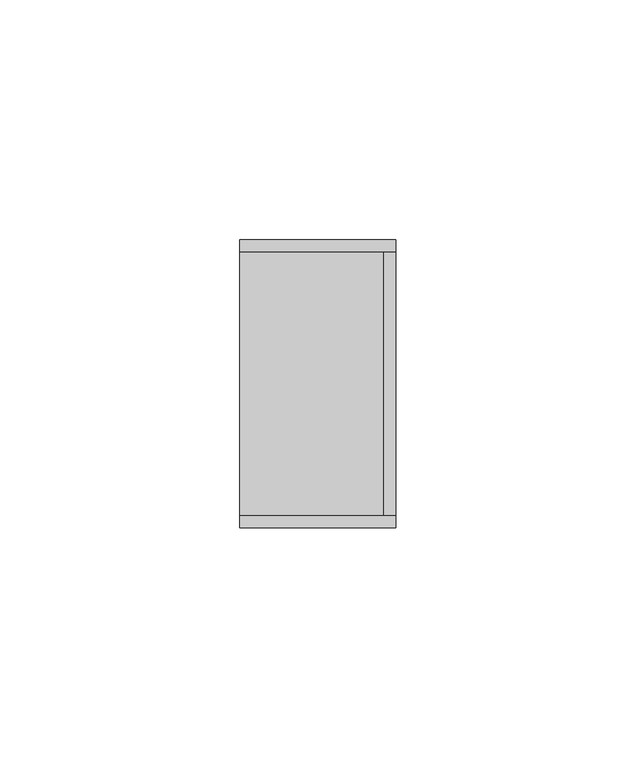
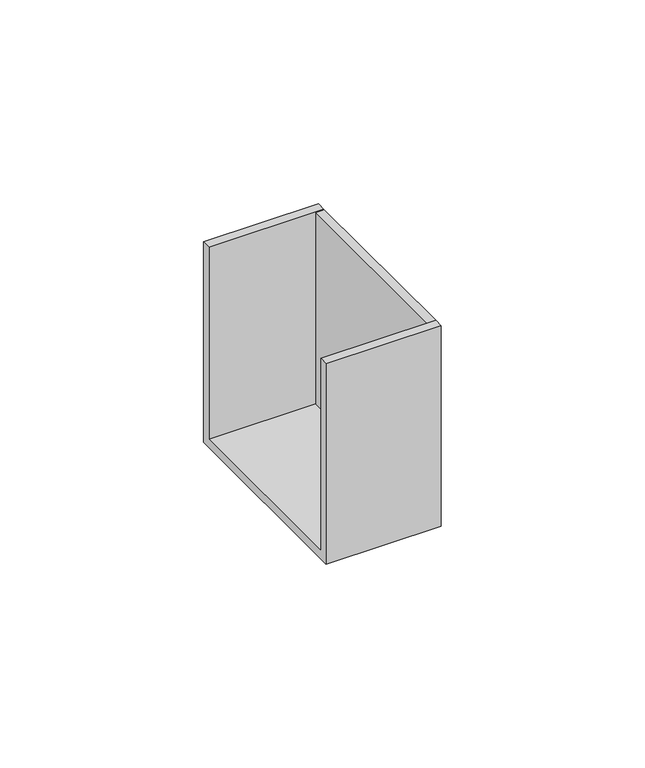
"""IFC4 building model written with IfcOpenShell, lengths in millimetres: cable carrier fitting geometry, КНС_ЗаглушкаТорцеваяLAN_ILC_DKC : Заглушка торцевая LAN_DKC."""

from ifc_helpers import new_model, si_unit, frame, origin, place, context, project, spatial, polyline, outline, extrude, source, transform, mapped, element, save


def cable_carrier_fitting_3abe8eb1(model_context):
    return source(origin(), model_context, "Body", "SweptSolid", [
        extrude(outline(polyline([(30.0, -30.0), (-30.0, -30.0), (-30.0, 30.0), (-27.5, 30.0), (-27.5, -27.5), (27.5, -27.5), (27.5, 30.0), (30.0, 30.0), (30.0, -30.0)])), frame((-32.5, 0.0, 0.0), z_axis=(1.0, 0.0, 0.0), x_axis=(0.0, 1.0, 0.0)), (0.0, 0.0, 1.0), 32.5),
        extrude(outline(polyline([(0.0, 27.5), (0.0, -27.5), (-2.5, -27.5), (-2.5, 27.5), (0.0, 27.5)])), frame((0.0, 0.0, -30.0), z_axis=(0.0, 0.0, 1.0), x_axis=(1.0, 0.0, 0.0)), (0.0, 0.0, 1.0), 60.0),
    ])


if __name__ == "__main__":
    model = new_model("IFC4")
    model_context = context("Model", 3, world=origin())
    ifc_project = project(units=[si_unit("LENGTHUNIT", "METRE", prefix="MILLI")], contexts=[model_context])
    site = spatial("IfcSite", under=ifc_project)
    building = spatial("IfcBuilding", under=site)
    placement = place(None, origin())
    cable_carrier_fitting_shape = cable_carrier_fitting_3abe8eb1(model_context)
    element("IfcCableCarrierFitting", 1, ObjectType="КНС_ЗаглушкаТорцеваяLAN_ILC_DKC : Заглушка торцевая LAN_DKC", at=placement, inside=building, context=model_context, shape_type="MappedRepresentation", body=[
        mapped(cable_carrier_fitting_shape, transform((0.0, 0.0, 0.0), x_axis=(1.0, 0.0, 0.0), y_axis=(0.0, 1.0, 0.0), z_axis=(0.0, 0.0, 1.0))),
    ])
    save(model, "model.ifc")
